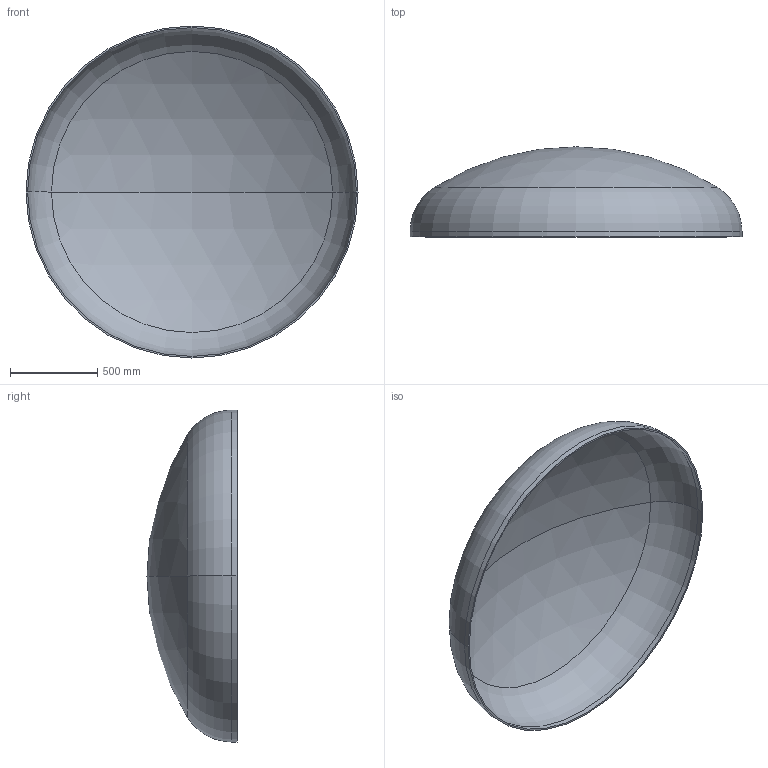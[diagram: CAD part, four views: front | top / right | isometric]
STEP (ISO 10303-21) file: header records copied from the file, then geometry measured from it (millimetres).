
FILE_DESCRIPTION (( 'STEP AP203' ), '1' );
FILE_NAME ('DIN 28013 Korbbogenform_-_Boden DIN 28013 - 1900 x 30 - I - s=9.step', '2016-07-01T12:53:43', ( '' ), ( '' ), 'SwSTEP 2.0', 'SolidWorks 2013', '' );
FILE_SCHEMA (( 'CONFIG_CONTROL_DESIGN' ));
Length unit declared in the file: millimetre
Products named in the file (1): DIN 28013 Korbbogenform_-_Boden DIN 28013 - 1900 x 30 - I - s=9
Bounding box: 1900 x 515.4 x 1900 mm (x, y, z)
Volume: 36665478.5 mm3; surface area: 8201517.3 mm2
Topology: 1 solids, 1 shells, 13 faces, 24 edges, 14 vertices
Faces by surface type: torus 4, cylinder 4, sphere 4, plane 1
Entity records: 407 total; most frequent: DIRECTION 72, CARTESIAN_POINT 52, ORIENTED_EDGE 48, AXIS2_PLACEMENT_3D 34, EDGE_CURVE 24, CIRCLE 20, EDGE_LOOP 14, VERTEX_POINT 14
